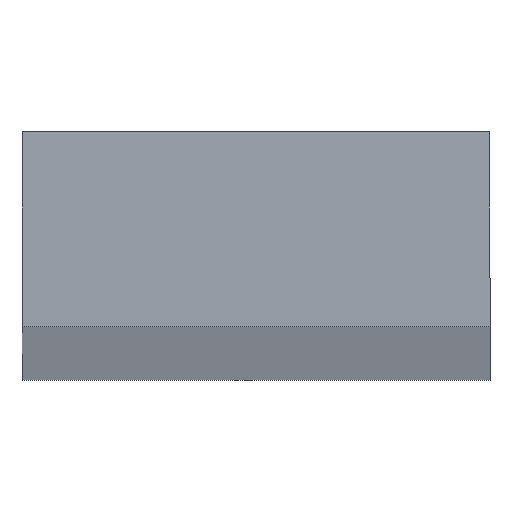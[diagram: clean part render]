
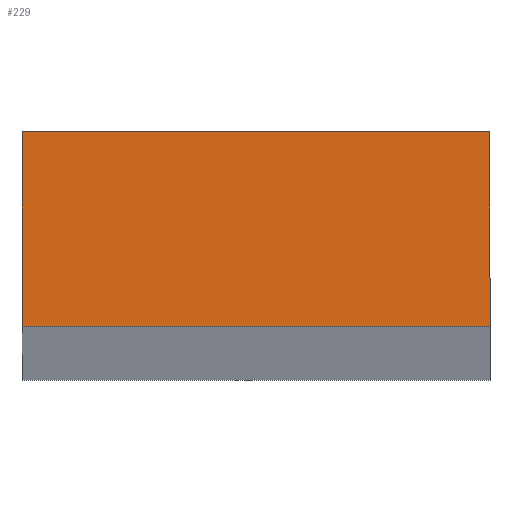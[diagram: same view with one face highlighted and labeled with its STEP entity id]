
A CAD part, top view. The second image highlights one B-rep face of the part: STEP entity #229.
In plain terms, the highlighted planar face has unit normal (0, 0, 1).
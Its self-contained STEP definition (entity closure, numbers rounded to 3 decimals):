
#1 = LINE ( 'NONE', #74, #136 ) ;
#4 = EDGE_CURVE ( 'NONE', #113, #230, #100, .T. ) ;
#13 = DIRECTION ( 'NONE',  ( 0., -1., 0. ) ) ;
#17 = CARTESIAN_POINT ( 'NONE',  ( -1.077, 2.128, 790. ) ) ;
#24 = ORIENTED_EDGE ( 'NONE', *, *, #201, .T. ) ;
#35 = LINE ( 'NONE', #129, #213 ) ;
#57 = PLANE ( 'NONE',  #192 ) ;
#62 = ORIENTED_EDGE ( 'NONE', *, *, #4, .T. ) ;
#73 = EDGE_CURVE ( 'NONE', #97, #113, #101, .T. ) ;
#74 = CARTESIAN_POINT ( 'NONE',  ( -1.077, 7.128, 790. ) ) ;
#81 = ORIENTED_EDGE ( 'NONE', *, *, #184, .T. ) ;
#91 = DIRECTION ( 'NONE',  ( -1., 0., 0. ) ) ;
#97 = VERTEX_POINT ( 'NONE', #205 ) ;
#100 = LINE ( 'NONE', #117, #151 ) ;
#101 = LINE ( 'NONE', #135, #108 ) ;
#107 = CARTESIAN_POINT ( 'NONE',  ( -1.077, 7.128, 790. ) ) ;
#108 = VECTOR ( 'NONE', #13, 1000. ) ;
#109 = CARTESIAN_POINT ( 'NONE',  ( -13.077, 2.128, 790. ) ) ;
#113 = VERTEX_POINT ( 'NONE', #109 ) ;
#117 = CARTESIAN_POINT ( 'NONE',  ( -13.077, 2.128, 790. ) ) ;
#125 = FACE_OUTER_BOUND ( 'NONE', #167, .T. ) ;
#127 = DIRECTION ( 'NONE',  ( 0., 0., 1. ) ) ;
#129 = CARTESIAN_POINT ( 'NONE',  ( -13.077, 7.128, 790. ) ) ;
#135 = CARTESIAN_POINT ( 'NONE',  ( -13.077, 7.128, 790. ) ) ;
#136 = VECTOR ( 'NONE', #146, 1000. ) ;
#146 = DIRECTION ( 'NONE',  ( 0., 1., 0. ) ) ;
#151 = VECTOR ( 'NONE', #232, 1000. ) ;
#152 = ORIENTED_EDGE ( 'NONE', *, *, #73, .T. ) ;
#167 = EDGE_LOOP ( 'NONE', ( #152, #62, #24, #81 ) ) ;
#180 = CARTESIAN_POINT ( 'NONE',  ( 0., 0., 790. ) ) ;
#184 = EDGE_CURVE ( 'NONE', #190, #97, #35, .T. ) ;
#190 = VERTEX_POINT ( 'NONE', #107 ) ;
#192 = AXIS2_PLACEMENT_3D ( 'NONE', #180, #127, #204 ) ;
#201 = EDGE_CURVE ( 'NONE', #230, #190, #1, .T. ) ;
#204 = DIRECTION ( 'NONE',  ( 1., 0., 0. ) ) ;
#205 = CARTESIAN_POINT ( 'NONE',  ( -13.077, 7.128, 790. ) ) ;
#213 = VECTOR ( 'NONE', #91, 1000. ) ;
#229 = ADVANCED_FACE ( 'NONE', ( #125 ), #57, .T. ) ;
#230 = VERTEX_POINT ( 'NONE', #17 ) ;
#232 = DIRECTION ( 'NONE',  ( 1., 0., 0. ) ) ;
